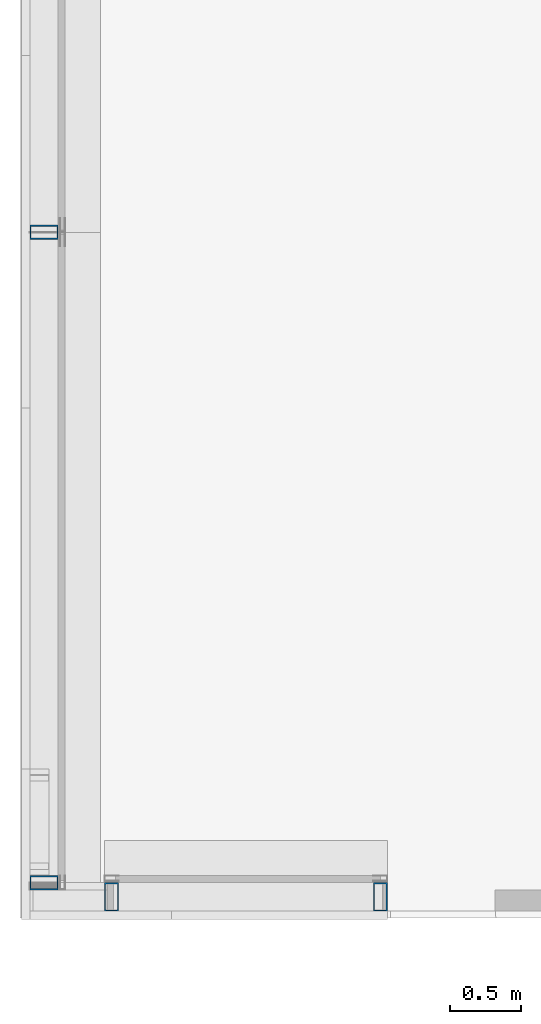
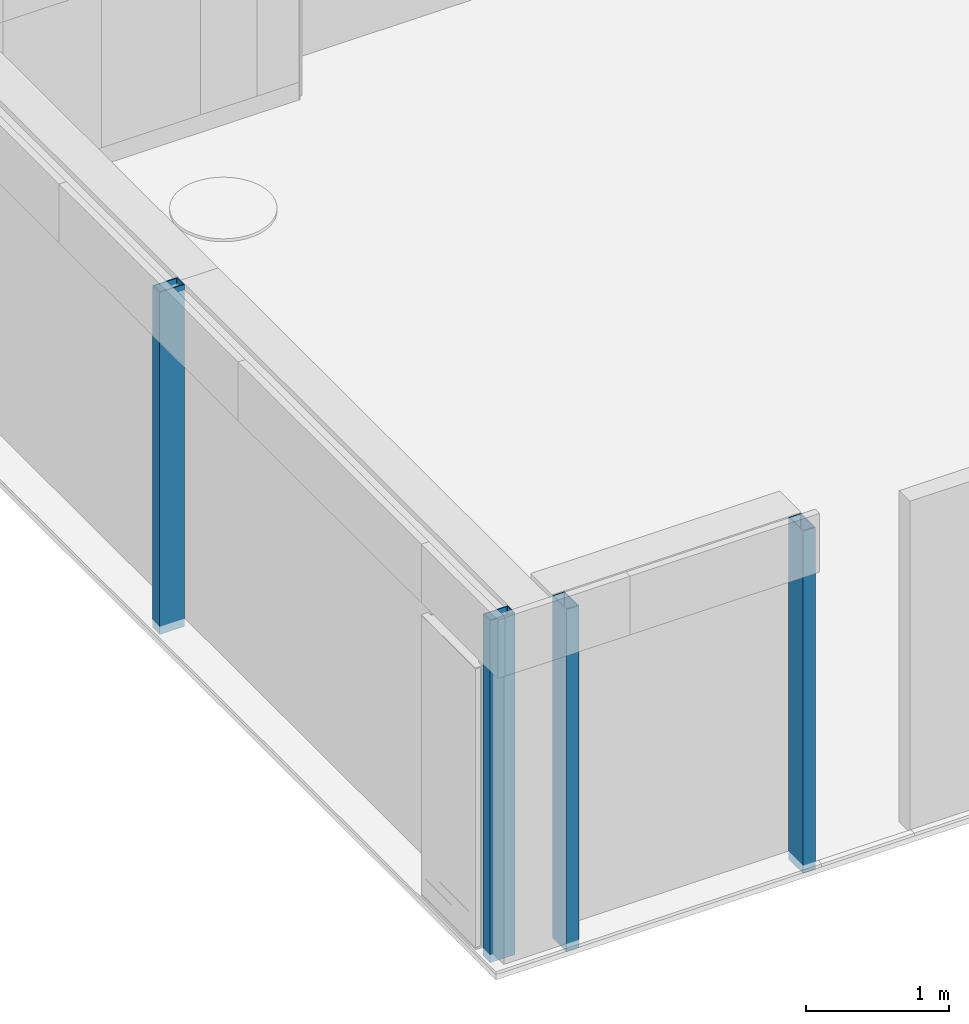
# One storey, part 1 of 14: 4 columns.
"""IFC2X3 building model written with IfcOpenShell, lengths in millimetres."""

from ifc_helpers import new_model, entity, si_unit, converted_unit, derived_unit, direction, frame, frame_2d, origin, origin_with_axes, place, context, subcontext, project, spatial, polyline, circle_curve, parameter, trimmed, segment, composite_curve, outline, extrude, source, transform, mapped, material, type_object, element, save


model = new_model("IFC2X3")

# Units and contexts
model_context = context("Model", 3, precision=0.01, world=frame((0.0, 4.29681676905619e-09, 0.0)), true_north=direction((4.01073788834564e-13, 1.0)))
plan_context = context("Plan", 3, precision=0.01, world=frame((0.0, 4.29681676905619e-09, 0.0)), true_north=direction((4.01073788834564e-13, 1.0)))
body_context = subcontext(model_context, "Body", "Model", "MODEL_VIEW")
ifc_project = project(units=[converted_unit("PLANEANGLEUNIT", "DEGREE", entity("IfcPositiveLengthMeasure", 0.0174532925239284), si_unit("PLANEANGLEUNIT", "RADIAN"), dimensions=[0, 0, 0, 0, 0, 0, 0]), si_unit("AREAUNIT", "SQUARE_METRE"), si_unit("LENGTHUNIT", "METRE", prefix="MILLI"), si_unit("MASSUNIT", "GRAM", prefix="KILO"), si_unit("POWERUNIT", "WATT"), si_unit("PRESSUREUNIT", "PASCAL"), si_unit("FORCEUNIT", "NEWTON", prefix="KILO"), si_unit("ELECTRICVOLTAGEUNIT", "VOLT"), si_unit("ELECTRICCURRENTUNIT", "AMPERE"), si_unit("THERMODYNAMICTEMPERATUREUNIT", "DEGREE_CELSIUS"), si_unit("TIMEUNIT", "SECOND"), si_unit("VOLUMEUNIT", "CUBIC_METRE"), derived_unit("LINEARVELOCITYUNIT", [(si_unit("LENGTHUNIT", "METRE"), 1), (si_unit("TIMEUNIT", "SECOND"), -1)]), derived_unit("VOLUMETRICFLOWRATEUNIT", [(si_unit("VOLUMEUNIT", "CUBIC_METRE"), 1), (si_unit("TIMEUNIT", "SECOND"), -1)]), derived_unit("THERMALTRANSMITTANCEUNIT", [(si_unit("POWERUNIT", "WATT"), 1), (si_unit("THERMODYNAMICTEMPERATUREUNIT", "KELVIN"), -1), (si_unit("AREAUNIT", "SQUARE_METRE"), -1)]), derived_unit("SOUNDPRESSUREUNIT", [(si_unit("PRESSUREUNIT", "PASCAL"), 1)])], contexts=[model_context, plan_context])

# Site, building, storey
site_placement = place(None, origin_with_axes())
site = spatial("IfcSite", under=ifc_project, at=site_placement, Name="ENGM", CompositionType="ELEMENT")
building_placement = place(site_placement, origin_with_axes())
building = spatial("IfcBuilding", under=site, at=building_placement, Name="TI", CompositionType="ELEMENT")
storey_placement = place(building_placement, frame((0.0, 0.0, 210900.0), z_axis=(0.0, 0.0, 1.0), x_axis=(1.0, 0.0, 0.0)))
storey = spatial("IfcBuildingStorey", under=building, at=storey_placement, Name="Nivå F", CompositionType="ELEMENT", Elevation=210900.0)

# Columns
ifc_material = material(Name="_NSW Stål")
column_type_1 = type_object("IfcColumnType", Name="B222 - HUP:B222 - HUP - 200 x 100 x 8", PredefinedType="COLUMN", material=ifc_material)
shared_shape_1 = source(origin(), body_context, "Body", "SweptSolid", [
    extrude(outline(composite_curve([segment(trimmed(circle_curve(frame_2d((42.0, -92.0), x_axis=(1.0, 0.0)), 8.0), [parameter(270.0)], [parameter(360.0)], True, "PARAMETER"), True, "CONTINUOUS"), segment(polyline([(50.0, -92.0), (50.0, 92.0)]), True, "CONTINUOUS"), segment(trimmed(circle_curve(frame_2d((42.0, 92.0), x_axis=(1.0, 0.0)), 8.0), [parameter(360.0)], [parameter(89.9999999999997)], True, "PARAMETER"), True, "CONTINUOUS"), segment(polyline([(42.0, 100.0), (-42.0, 100.0)]), True, "CONTINUOUS"), segment(trimmed(circle_curve(frame_2d((-42.0, 92.0), x_axis=(1.0, 0.0)), 8.0), [parameter(90.0)], [parameter(180.0)], True, "PARAMETER"), True, "CONTINUOUS"), segment(polyline([(-50.0, 92.0), (-50.0, -92.0)]), True, "CONTINUOUS"), segment(trimmed(circle_curve(frame_2d((-42.0, -92.0), x_axis=(1.0, 0.0)), 8.0), [parameter(180.0)], [parameter(269.999999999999)], True, "PARAMETER"), True, "CONTINUOUS"), segment(polyline([(-42.0, -100.0), (42.0, -100.0)]), True, "CONTINUOUS")], self_intersect=False), holes=[composite_curve([segment(polyline([(38.0, -92.0), (-38.0, -92.0)]), True, "CONTINUOUS"), segment(trimmed(circle_curve(frame_2d((-38.0, -88.0), x_axis=(1.0, 0.0)), 4.0), [parameter(180.0)], [parameter(270.0)], True, "PARAMETER"), False, "CONTINUOUS"), segment(polyline([(-42.0, -88.0), (-42.0, 88.0)]), True, "CONTINUOUS"), segment(trimmed(circle_curve(frame_2d((-38.0, 88.0), x_axis=(1.0, 0.0)), 4.0), [parameter(90.0000000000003)], [parameter(180.0)], True, "PARAMETER"), False, "CONTINUOUS"), segment(polyline([(-38.0, 92.0), (38.0, 92.0)]), True, "CONTINUOUS"), segment(trimmed(circle_curve(frame_2d((38.0, 88.0), x_axis=(1.0, 0.0)), 4.0), [parameter(5.08888749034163e-13)], [parameter(90.0000000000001)], True, "PARAMETER"), False, "CONTINUOUS"), segment(polyline([(42.0, 88.0), (42.0, -88.0)]), True, "CONTINUOUS"), segment(trimmed(circle_curve(frame_2d((38.0, -88.0), x_axis=(1.0, 0.0)), 4.0), [parameter(270.0)], [parameter(0.0)], True, "PARAMETER"), False, "CONTINUOUS")], self_intersect=False)]), frame((0.0, 0.0, 210830.0)), (0.0, 0.0, 1.0), 2914.99999999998),
    extrude(outline(polyline([(-100.0, -50.0), (100.0, -50.0), (100.0, 50.0), (-100.0, 50.0), (-100.0, -50.0)]), holes=[polyline([(-92.0, -42.0), (-92.0, 42.0), (92.0, 42.0), (92.0, -42.0), (-92.0, -42.0)])]), frame((0.0, 0.0, 210830.0), z_axis=(0.0, 0.0, 1.0), x_axis=(0.0, 1.0, 0.0)), (0.0, 0.0, 1.0), 2914.99999999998),
])
for number, where, z_axis, x_axis, name in (
    (1, (598169.99999994, 689249.999999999, -210900.0), (0.0, 0.0, 1.0), (0.0, 1.0, 0.0), "B222 - HUP:B222 - HUP - 200 x 100 x 8"),
    (2, (598169.99999994, 693862.499999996, -210900.0), (0.0, 0.0, 1.0), (0.0, 1.0, 0.0), "B222 - HUP:B222 - HUP - 200 x 100 x 8"),
    (3, (598649.99999994, 689149.999999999, -210900.0), (0.0, 0.0, 1.0), (-1.0, 0.0, 0.0), "B222 - HUP:B222 - HUP - 200 x 100 x 8"),
):
    element("IfcColumn", number, at=place(storey_placement, frame(where, z_axis=z_axis, x_axis=x_axis)), inside=storey, type_object=column_type_1, material=ifc_material, Name=name, ObjectType="B222 - HUP:B222 - HUP - 200 x 100 x 8", context=body_context, shape_type="MappedRepresentation", body=[
        mapped(shared_shape_1, transform((0.0, 0.0, 0.0), scale=1.0)),
    ])
column_type_2 = type_object("IfcColumnType", Name="B222 - HUP:B222 - HUP - 200 x 100 x 8", PredefinedType="COLUMN", material=ifc_material)
shared_shape_2 = source(origin(), body_context, "Body", "SweptSolid", [
    extrude(outline(composite_curve([segment(polyline([(-42.0, -100.0), (42.0, -100.0)]), True, "CONTINUOUS"), segment(trimmed(circle_curve(frame_2d((42.0, -92.0), x_axis=(-1.0, 0.0)), 8.0), [parameter(90.0000000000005)], [parameter(180.0)], True, "PARAMETER"), True, "CONTINUOUS"), segment(polyline([(50.0, -92.0), (50.0, 92.0)]), True, "CONTINUOUS"), segment(trimmed(circle_curve(frame_2d((42.0, 92.0), x_axis=(-1.0, 0.0)), 8.0), [parameter(180.0)], [parameter(270.0)], True, "PARAMETER"), True, "CONTINUOUS"), segment(polyline([(42.0, 100.0), (-42.0, 100.0)]), True, "CONTINUOUS"), segment(trimmed(circle_curve(frame_2d((-42.0, 92.0), x_axis=(-1.0, 0.0)), 8.0), [parameter(270.0)], [parameter(2.54444374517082e-13)], True, "PARAMETER"), True, "CONTINUOUS"), segment(polyline([(-50.0, 92.0), (-50.0, -92.0)]), True, "CONTINUOUS"), segment(trimmed(circle_curve(frame_2d((-42.0, -92.0), x_axis=(-1.0, 0.0)), 8.0), [parameter(3.56222124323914e-13)], [parameter(90.0000000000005)], True, "PARAMETER"), True, "CONTINUOUS")], self_intersect=False), holes=[composite_curve([segment(trimmed(circle_curve(frame_2d((-38.0, -88.0), x_axis=(-1.0, 0.0)), 4.0), [parameter(0.0)], [parameter(90.0)], True, "PARAMETER"), False, "CONTINUOUS"), segment(polyline([(-42.0, -88.0), (-42.0, 88.0)]), True, "CONTINUOUS"), segment(trimmed(circle_curve(frame_2d((-38.0, 88.0), x_axis=(-1.0, 0.0)), 4.0), [parameter(270.0)], [parameter(359.999999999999)], True, "PARAMETER"), False, "CONTINUOUS"), segment(polyline([(-38.0, 92.0), (38.0, 92.0)]), True, "CONTINUOUS"), segment(trimmed(circle_curve(frame_2d((38.0, 88.0), x_axis=(-1.0, 0.0)), 4.0), [parameter(180.0)], [parameter(270.0)], True, "PARAMETER"), False, "CONTINUOUS"), segment(polyline([(42.0, 88.0), (42.0, -88.0)]), True, "CONTINUOUS"), segment(trimmed(circle_curve(frame_2d((38.0, -88.0), x_axis=(-1.0, 0.0)), 4.0), [parameter(90.0)], [parameter(180.0)], True, "PARAMETER"), False, "CONTINUOUS"), segment(polyline([(38.0, -92.0), (-38.0, -92.0)]), True, "CONTINUOUS")], self_intersect=False)]), frame((0.0, 0.0, 210830.0), z_axis=(0.0, 0.0, 1.0), x_axis=(-1.0, 0.0, 0.0)), (0.0, 0.0, 1.0), 2914.99999999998),
    extrude(outline(polyline([(-50.0, -100.0), (50.0, -100.0), (50.0, 100.0), (-50.0, 100.0), (-50.0, -100.0)]), holes=[polyline([(-42.0, -92.0), (-42.0, 92.0), (42.0, 92.0), (42.0, -92.0), (-42.0, -92.0)])]), frame((0.0, 0.0, 210830.0), z_axis=(0.0, 0.0, 1.0), x_axis=(-1.0, 0.0, 0.0)), (0.0, 0.0, 1.0), 2914.99999999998),
])
column_placement = place(storey_placement, frame((600555.000000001, 689149.999999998, -210900.0), z_axis=(0.0, 0.0, 1.0), x_axis=(1.0, 0.0, 0.0)))
element("IfcColumn", 4, at=column_placement, inside=storey, type_object=column_type_2, material=ifc_material, Name="B222 - HUP:B222 - HUP - 200 x 100 x 8", ObjectType="B222 - HUP:B222 - HUP - 200 x 100 x 8", context=body_context, shape_type="MappedRepresentation", body=[
    mapped(shared_shape_2, transform((0.0, 0.0, 0.0), scale=1.0)),
])

save(model, "model.ifc")
